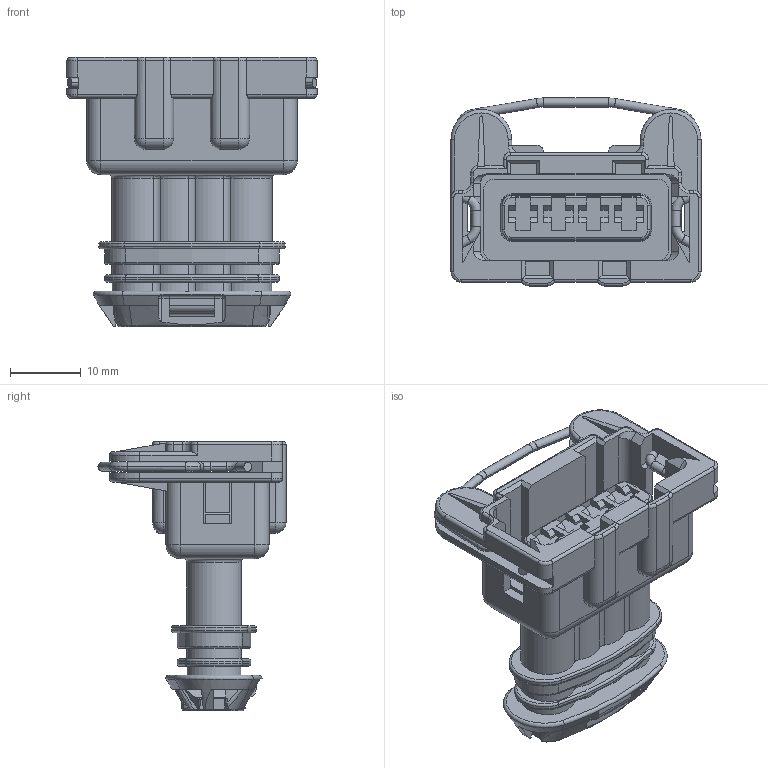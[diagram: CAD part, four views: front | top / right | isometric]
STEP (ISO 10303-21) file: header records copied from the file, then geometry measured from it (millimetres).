
FILE_DESCRIPTION((''),'2;1');
FILE_NAME('C-282192-1','2014-07-29T',('workeradm'),('Tyco Electronics Ltd.'),'PRO/ENGINEER BY PARAMETRIC TECHNOLOGY CORPORATION, 2013050','PRO/ENGINEER BY PARAMETRIC TECHNOLOGY CORPORATION, 2013050','');
FILE_SCHEMA(('AUTOMOTIVE_DESIGN { 1 0 10303 214 1 1 1 1 }'));
Length unit declared in the file: millimetre
Products named in the file (1): C-282192-1
Bounding box: 35.4 x 26.62 x 38.1 mm (x, y, z)
Volume: 8946.3 mm3; surface area: 7524.8 mm2
Topology: 1 solids, 1 shells, 818 faces, 2158 edges, 1330 vertices
Faces by surface type: plane 347, cylinder 272, torus 96, cone 45, bspline 40, sphere 18
Entity records: 35638 total; most frequent: CARTESIAN_POINT 8944, ORIENTED_EDGE 4316, DIRECTION 4143, PRESENTATION_STYLE_ASSIGNMENT 2159, STYLED_ITEM 2159, CURVE_STYLE 2158, EDGE_CURVE 2158, AXIS2_PLACEMENT_3D 1475
